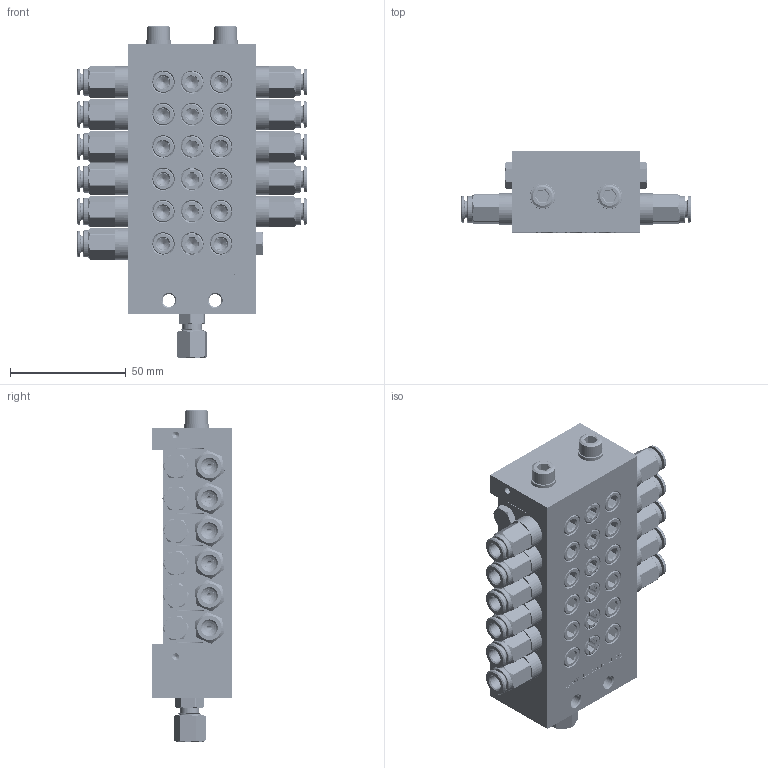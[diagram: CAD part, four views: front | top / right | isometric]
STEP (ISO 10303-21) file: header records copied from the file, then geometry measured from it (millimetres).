
FILE_DESCRIPTION (( 'STEP AP214' ), '1' );
FILE_NAME ('STW_XV_0143_11_0502_11_Auslässe.STEP', '2026-02-04T10:47:10', ( '' ), ( '' ), 'SwSTEP 2.0', 'SolidWorks 2022', '' );
FILE_SCHEMA (( 'AUTOMOTIVE_DESIGN' ));
Length unit declared in the file: millimetre
Products named in the file (19): XV_Mittelelement; M6X65_DIN_912; Verschlussstopfen_1_8_2; STW_XV_ENGANG; STW_XV_MITTEL_1; 991214010601_Mutter; H200139_HDS01_6_M10X1_08.05.17; 991214010601_Koerper; OR 7.66X1.78_1; STW_XV_Verbindungsstopen; 991214010601_Schneidring; U_Scheibe_6; RIVOLUZIONE_0_2; STW_XV_END; STW_XV_0143_11_0502_11_Auslässe; 991214010601; DR6-C_HDX_25.07.16_1; STW_XV_Kolbenanschlag; Verschlussstopfen_1_8
Assembly tree (52 placements, depth 3):
  STW_XV_0143_11_0502_11_Auslässe
    STW_XV_ENGANG
    STW_XV_MITTEL_1  x3
    STW_XV_END
    Verschlussstopfen_1_8_2  x6
    STW_XV_Kolbenanschlag  x6
    STW_XV_Verbindungsstopen  x3
    M6X65_DIN_912  x2
    U_Scheibe_6  x2
    991214010601
      991214010601_Koerper
      991214010601_Schneidring
      991214010601_Mutter
    XV_Mittelelement  x3
      STW_XV_MITTEL_1
      STW_XV_Kolbenanschlag
      Verschlussstopfen_1_8_2
      STW_XV_Verbindungsstopen
    H200139_HDS01_6_M10X1_08.05.17  x11
      OR 7.66X1.78_1
      DR6-C_HDX_25.07.16_1
      RIVOLUZIONE_0_2
    Verschlussstopfen_1_8
Bounding box: 99.6 x 35 x 143.68 mm (x, y, z)
Volume: 212122.5 mm3; surface area: 123763.4 mm2
Topology: 79 solids, 79 shells, 2660 faces, 6884 edges, 4430 vertices
Faces by surface type: plane 1310, cylinder 646, cone 513, bspline 179, torus 12
Full cylindrical faces by diameter (mm): 2 x161, 3 x13, 4.2 x11, 4.5 x1, 5 x65, 5.5 x2, 5.9 x2, 6 x3, 6.2 x26, 6.3 x11, 6.4 x2, 6.5 x12, 7 x12, 7.2 x11, 7.4 x1, 7.67 x1, 8 x13, 8.3 x1, 8.4 x6, 8.5 x11, 8.6 x30, 9 x14, 9.7 x13, 9.73 x6, 9.8 x7, 9.9 x11, 10 x36, 10.3 x11, 11 x2, 11.5 x11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
Entity records: 45616 total; most frequent: CARTESIAN_POINT 22444, ORIENTED_EDGE 3064, DIRECTION 2707, EDGE_CURVE 1532, VERTEX_POINT 1095, EDGE_LOOP 1035, AXIS2_PLACEMENT_3D 971, FACE_OUTER_BOUND 832
